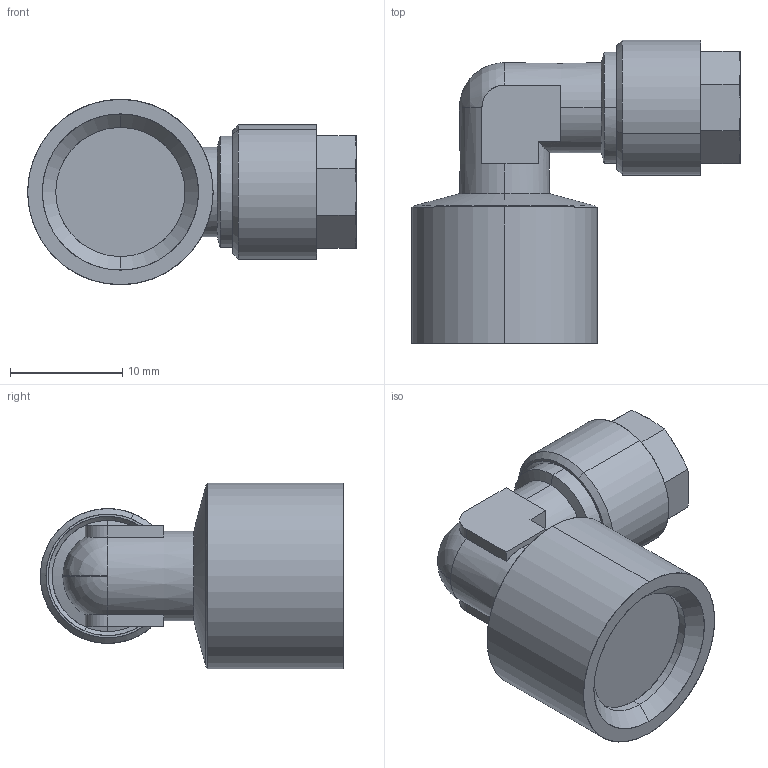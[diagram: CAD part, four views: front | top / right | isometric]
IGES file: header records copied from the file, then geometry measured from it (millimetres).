
Start section: SolidWorks IGES file using analytic representation for surfaces
Global section: file name: K:\Disegni Esecutivi\Serie 1000\Complessivi Serie 1000\1120\1120_iges\0112000003A.IGS; native system: SolidWorks 2008; preprocessor: SolidWorks 2008; author: cad05; date: 090121.171644; units: millimetre
Bounding box: 29.25 x 27 x 16.5 mm (x, y, z)
Surface area: 2133.1 mm2 (no closed solid volume)
Topology: 0 solids, 0 shells, 69 faces, 671 edges, 669 vertices
Faces by surface type: revolution 37, bspline 32
